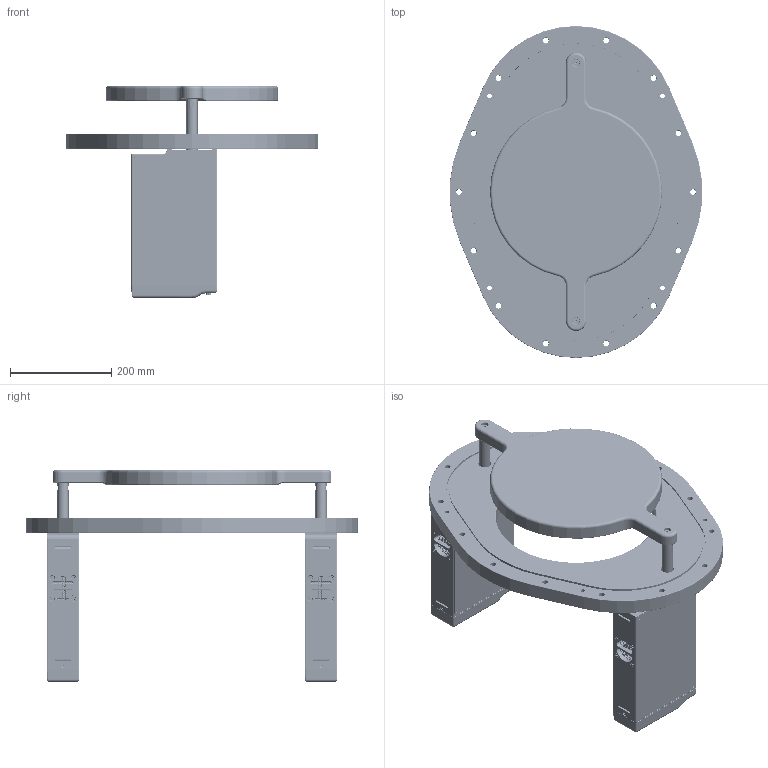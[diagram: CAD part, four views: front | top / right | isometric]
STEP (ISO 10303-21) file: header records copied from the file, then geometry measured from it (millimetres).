
FILE_DESCRIPTION(/* description */ (''),/* implementation_level */ '2;1');
FILE_NAME(/* name */ '1595875056_203.stp',/* time_stamp */ '2024-08-09T17:56:27+08:00',/* author */ (''),/* organization */ (''),/* preprocessor_version */ 'ST-DEVELOPER v19.3',/* originating_system */ 'SIEMENS PLM Software NX2212.6000',/* authorisation */ '');
FILE_SCHEMA (('AP203_CONFIGURATION_CONTROLLED_3D_DESIGN_OF_MECHANICAL_PARTS_AND_ASSEMBLIES_MIM_LF { 1 0 10303 403 2 1 2}'));
Products named in the file (5): 736034; 403260; 736021; 886651; 736022
Assembly tree (6 placements, depth 2):
  736022
    886651  x2
    736021
    403260  x2
    736034
Bounding box: 498.39 x 656 x 419 mm (x, y, z)
Volume: 12925689.4 mm3; surface area: 1212855.5 mm2
Topology: 12 solids, 36 shells, 4697 faces, 13559 edges, 8669 vertices
Faces by surface type: plane 1811, torus 1691, cylinder 709, extrusion 198, cone 134, bspline 92, sphere 62
Full cylindrical faces by diameter (mm): 1 x100, 1.5 x2, 2.459 x4, 2.5 x2, 3 x28, 3.2 x4, 4 x2, 4.5 x4, 6 x24, 6.2 x2, 6.8 x2, 7 x4, 8 x10, 8.4 x10, 8.5 x4, 9 x6, 9.62 x2, 11 x16, 12.5 x12, 13 x2, 14 x2, 18 x14, 22 x4, 22.2 x2, 25 x2, 28 x2, 45.5 x2, 318 x1, 350 x1, 352 x1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
Entity records: 106438 total; most frequent: CARTESIAN_POINT 46463, DIRECTION 10729, ORIENTED_EDGE 9790, EDGE_CURVE 4895, EDGE_LOOP 4637, AXIS2_PLACEMENT_3D 4177, VERTEX_POINT 3689, FACE_BOUND 3287
